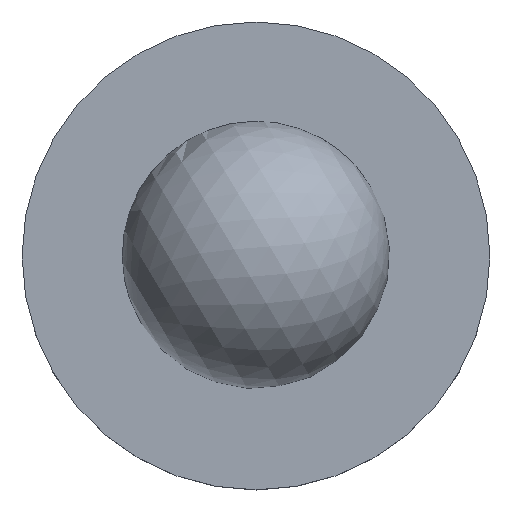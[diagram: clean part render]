
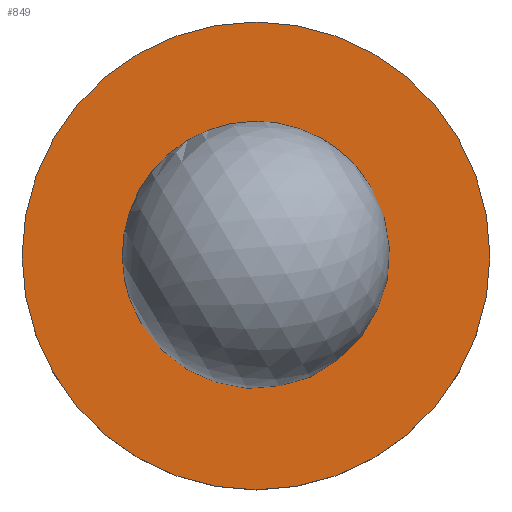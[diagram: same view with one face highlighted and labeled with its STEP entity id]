
A CAD part, top view. The second image highlights one B-rep face of the part: STEP entity #849.
In plain terms, the highlighted planar face has unit normal (0, 0, 1).
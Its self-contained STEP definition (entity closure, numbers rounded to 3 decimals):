
#57=FACE_BOUND('',#195,.T.);
#95=PLANE('',#1055);
#142=FACE_OUTER_BOUND('',#194,.T.);
#194=EDGE_LOOP('',(#791));
#195=EDGE_LOOP('',(#792,#793));
#348=CIRCLE('',#1049,3.324);
#349=CIRCLE('',#1050,3.324);
#351=CIRCLE('',#1053,17.5);
#449=VERTEX_POINT('',#1576);
#450=VERTEX_POINT('',#1577);
#452=VERTEX_POINT('',#1584);
#561=EDGE_CURVE('',#449,#450,#348,.T.);
#562=EDGE_CURVE('',#450,#449,#349,.T.);
#565=EDGE_CURVE('',#452,#452,#351,.T.);
#791=ORIENTED_EDGE('',*,*,#565,.F.);
#792=ORIENTED_EDGE('',*,*,#561,.T.);
#793=ORIENTED_EDGE('',*,*,#562,.T.);
#849=ADVANCED_FACE('',(#142,#57),#95,.F.);
#1049=AXIS2_PLACEMENT_3D('',#1578,#1274,#1275);
#1050=AXIS2_PLACEMENT_3D('',#1579,#1276,#1277);
#1053=AXIS2_PLACEMENT_3D('',#1585,#1283,#1284);
#1055=AXIS2_PLACEMENT_3D('',#1589,#1288,#1289);
#1274=DIRECTION('center_axis',(0.,0.,-1.));
#1275=DIRECTION('ref_axis',(1.,0.,0.));
#1276=DIRECTION('center_axis',(0.,0.,-1.));
#1277=DIRECTION('ref_axis',(1.,0.,0.));
#1283=DIRECTION('center_axis',(0.,0.,-1.));
#1284=DIRECTION('ref_axis',(-1.,0.,0.));
#1288=DIRECTION('center_axis',(0.,0.,-1.));
#1289=DIRECTION('ref_axis',(-1.,0.,0.));
#1576=CARTESIAN_POINT('',(3.324,0.,5.));
#1577=CARTESIAN_POINT('',(-3.324,0.,5.));
#1578=CARTESIAN_POINT('Origin',(0.,0.,5.));
#1579=CARTESIAN_POINT('Origin',(0.,0.,5.));
#1584=CARTESIAN_POINT('',(17.5,0.,5.));
#1585=CARTESIAN_POINT('Origin',(0.,0.,5.));
#1589=CARTESIAN_POINT('Origin',(0.,0.,5.));
